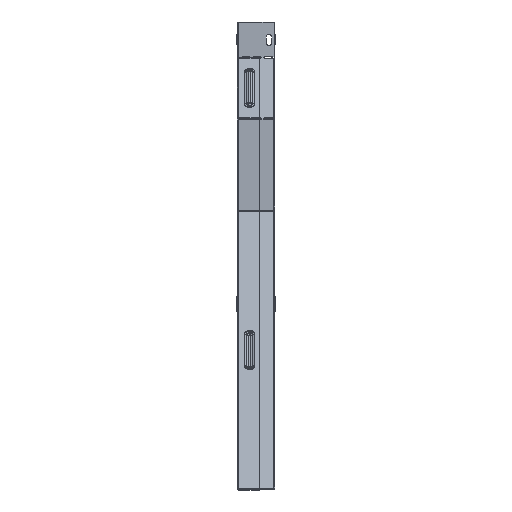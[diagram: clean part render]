
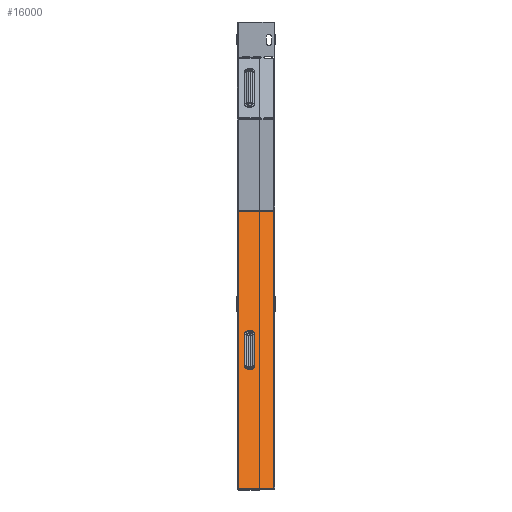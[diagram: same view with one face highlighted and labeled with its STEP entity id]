
A CAD part, left-side view. The second image highlights one B-rep face of the part: STEP entity #16000.
In plain terms, the highlighted planar face has unit normal (-0.707, 0, 0.707).
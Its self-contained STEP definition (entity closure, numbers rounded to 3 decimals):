
#130 = VECTOR ( 'NONE', #931, 1000. ) ;
#278 = AXIS2_PLACEMENT_3D ( 'NONE', #406, #8941, #17219 ) ;
#381 = ORIENTED_EDGE ( 'NONE', *, *, #4396, .F. ) ;
#406 = CARTESIAN_POINT ( 'NONE',  ( 148.148, 33.1, -105.721 ) ) ;
#484 = LINE ( 'NONE', #17810, #10661 ) ;
#535 = VERTEX_POINT ( 'NONE', #9638 ) ;
#931 = DIRECTION ( 'NONE',  ( -0.707, 0., -0.707 ) ) ;
#1103 = ORIENTED_EDGE ( 'NONE', *, *, #13887, .F. ) ;
#1774 = CARTESIAN_POINT ( 'NONE',  ( 148.148, 40.017, -105.721 ) ) ;
#1854 = ORIENTED_EDGE ( 'NONE', *, *, #3634, .F. ) ;
#1971 = VECTOR ( 'NONE', #7034, 1000. ) ;
#3155 = LINE ( 'NONE', #8668, #5793 ) ;
#3348 = VERTEX_POINT ( 'NONE', #12163 ) ;
#3386 = CARTESIAN_POINT ( 'NONE',  ( 126.934, 0., -126.934 ) ) ;
#3470 = CARTESIAN_POINT ( 'NONE',  ( -60.255, 1., -314.123 ) ) ;
#3616 = VERTEX_POINT ( 'NONE', #1774 ) ;
#3634 = EDGE_CURVE ( 'NONE', #7003, #3616, #16828, .T. ) ;
#3657 = CARTESIAN_POINT ( 'NONE',  ( 148.148, 26.183, -105.721 ) ) ;
#3707 = LINE ( 'NONE', #16522, #130 ) ;
#3757 = VECTOR ( 'NONE', #7646, 1000. ) ;
#4273 = DIRECTION ( 'NONE',  ( -0.707, 0., 0.707 ) ) ;
#4386 = VERTEX_POINT ( 'NONE', #3470 ) ;
#4396 = EDGE_CURVE ( 'NONE', #13252, #4386, #484, .T. ) ;
#4458 = LINE ( 'NONE', #14480, #12357 ) ;
#4751 = ORIENTED_EDGE ( 'NONE', *, *, #6198, .F. ) ;
#4991 = PLANE ( 'NONE',  #14837 ) ;
#5600 = ORIENTED_EDGE ( 'NONE', *, *, #15677, .T. ) ;
#5793 = VECTOR ( 'NONE', #7318, 1000. ) ;
#6198 = EDGE_CURVE ( 'NONE', #17212, #8464, #12132, .T. ) ;
#6371 = EDGE_CURVE ( 'NONE', #8464, #7003, #4458, .T. ) ;
#6698 = DIRECTION ( 'NONE',  ( 0., 1., 0. ) ) ;
#7003 = VERTEX_POINT ( 'NONE', #3657 ) ;
#7034 = DIRECTION ( 'NONE',  ( 0., 1., 0. ) ) ;
#7304 = EDGE_CURVE ( 'NONE', #535, #3348, #10149, .T. ) ;
#7318 = DIRECTION ( 'NONE',  ( 0., 1., 0. ) ) ;
#7646 = DIRECTION ( 'NONE',  ( 0.707, 0., 0.707 ) ) ;
#7693 = FACE_BOUND ( 'NONE', #16239, .T. ) ;
#8464 = VERTEX_POINT ( 'NONE', #15842 ) ;
#8668 = CARTESIAN_POINT ( 'NONE',  ( -60.255, 0., -314.123 ) ) ;
#8941 = DIRECTION ( 'NONE',  ( -0.707, 0., 0.707 ) ) ;
#9038 = DIRECTION ( 'NONE',  ( 0.707, 0., 0.707 ) ) ;
#9067 = EDGE_CURVE ( 'NONE', #3616, #17212, #3707, .T. ) ;
#9638 = CARTESIAN_POINT ( 'NONE',  ( -60.255, 48.2, -314.123 ) ) ;
#9869 = CARTESIAN_POINT ( 'NONE',  ( 314.123, 0., 60.255 ) ) ;
#10057 = CARTESIAN_POINT ( 'NONE',  ( 314.123, 1., 60.255 ) ) ;
#10149 = LINE ( 'NONE', #17269, #3757 ) ;
#10350 = DIRECTION ( 'NONE',  ( -0.707, 0., 0.707 ) ) ;
#10661 = VECTOR ( 'NONE', #16834, 1000. ) ;
#10950 = CARTESIAN_POINT ( 'NONE',  ( 105.721, 33.1, -148.148 ) ) ;
#12128 = AXIS2_PLACEMENT_3D ( 'NONE', #10950, #4273, #6698 ) ;
#12132 = CIRCLE ( 'NONE', #12128, 6.917 ) ;
#12163 = CARTESIAN_POINT ( 'NONE',  ( 314.123, 48.2, 60.255 ) ) ;
#12226 = ORIENTED_EDGE ( 'NONE', *, *, #6371, .F. ) ;
#12357 = VECTOR ( 'NONE', #12914, 1000. ) ;
#12914 = DIRECTION ( 'NONE',  ( 0.707, 0., 0.707 ) ) ;
#13252 = VERTEX_POINT ( 'NONE', #10057 ) ;
#13887 = EDGE_CURVE ( 'NONE', #4386, #535, #3155, .T. ) ;
#14090 = LINE ( 'NONE', #9869, #1971 ) ;
#14480 = CARTESIAN_POINT ( 'NONE',  ( 126.934, 26.183, -126.934 ) ) ;
#14837 = AXIS2_PLACEMENT_3D ( 'NONE', #3386, #10350, #9038 ) ;
#14922 = CARTESIAN_POINT ( 'NONE',  ( 105.721, 40.017, -148.148 ) ) ;
#15209 = ORIENTED_EDGE ( 'NONE', *, *, #7304, .F. ) ;
#15486 = FACE_OUTER_BOUND ( 'NONE', #17710, .T. ) ;
#15677 = EDGE_CURVE ( 'NONE', #13252, #3348, #14090, .T. ) ;
#15842 = CARTESIAN_POINT ( 'NONE',  ( 105.721, 26.183, -148.148 ) ) ;
#16000 = ADVANCED_FACE ( 'NONE', ( #7693, #15486 ), #4991, .T. ) ;
#16239 = EDGE_LOOP ( 'NONE', ( #4751, #17111, #1854, #12226 ) ) ;
#16522 = CARTESIAN_POINT ( 'NONE',  ( 126.934, 40.017, -126.934 ) ) ;
#16828 = CIRCLE ( 'NONE', #278, 6.917 ) ;
#16834 = DIRECTION ( 'NONE',  ( -0.707, 0., -0.707 ) ) ;
#17111 = ORIENTED_EDGE ( 'NONE', *, *, #9067, .F. ) ;
#17212 = VERTEX_POINT ( 'NONE', #14922 ) ;
#17219 = DIRECTION ( 'NONE',  ( 0., 1., 0. ) ) ;
#17269 = CARTESIAN_POINT ( 'NONE',  ( 314.434, 48.2, 60.566 ) ) ;
#17710 = EDGE_LOOP ( 'NONE', ( #381, #5600, #15209, #1103 ) ) ;
#17810 = CARTESIAN_POINT ( 'NONE',  ( 314.434, 1., 60.566 ) ) ;
